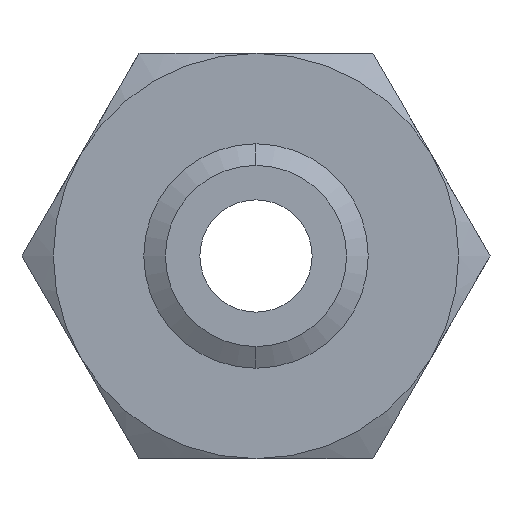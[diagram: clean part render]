
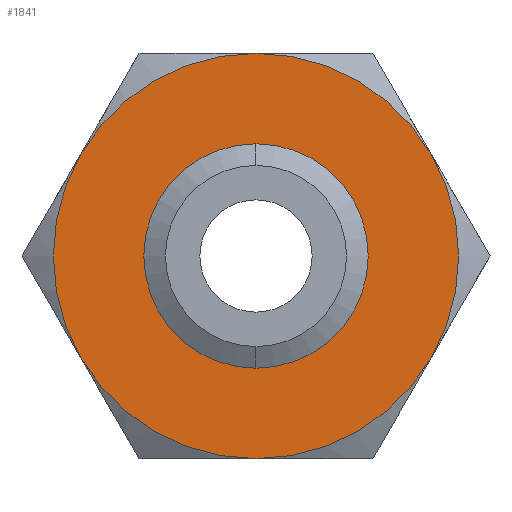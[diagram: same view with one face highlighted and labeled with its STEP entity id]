
A CAD part, front view. The second image highlights one B-rep face of the part: STEP entity #1841.
In plain terms, the highlighted planar face has unit normal (0, -1, 0).
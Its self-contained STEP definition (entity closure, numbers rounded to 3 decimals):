
#103 = VERTEX_POINT ( 'NONE', #429 ) ;
#104 = ORIENTED_EDGE ( 'NONE', *, *, #2124, .F. ) ;
#105 = EDGE_LOOP ( 'NONE', ( #104, #1705 ) ) ;
#106 = EDGE_CURVE ( 'NONE', #108, #103, #479, .T. ) ;
#108 = VERTEX_POINT ( 'NONE', #474 ) ;
#429 = CARTESIAN_POINT ( 'NONE',  ( 28.146, 0., 16.25 ) ) ;
#474 = CARTESIAN_POINT ( 'NONE',  ( 0., 0., 32.5 ) ) ;
#475 = DIRECTION ( 'NONE',  ( 0., 0., 1. ) ) ;
#476 = DIRECTION ( 'NONE',  ( 0., 1., 0. ) ) ;
#477 = CARTESIAN_POINT ( 'NONE',  ( 0., 0., 0. ) ) ;
#478 = AXIS2_PLACEMENT_3D ( 'NONE', #477, #476, #475 ) ;
#479 = CIRCLE ( 'NONE', #478, 32.5 ) ;
#795 = DIRECTION ( 'NONE',  ( 0., 0., -1. ) ) ;
#796 = DIRECTION ( 'NONE',  ( 0., -1., 0. ) ) ;
#797 = CARTESIAN_POINT ( 'NONE',  ( 0., 0., 0. ) ) ;
#798 = AXIS2_PLACEMENT_3D ( 'NONE', #797, #796, #795 ) ;
#799 = CIRCLE ( 'NONE', #798, 14.536 ) ;
#976 = CARTESIAN_POINT ( 'NONE',  ( -28.146, 0., 16.25 ) ) ;
#1000 = CARTESIAN_POINT ( 'NONE',  ( -28.146, 0., -16.25 ) ) ;
#1017 = DIRECTION ( 'NONE',  ( 0., 0., 1. ) ) ;
#1018 = DIRECTION ( 'NONE',  ( 0., 1., 0. ) ) ;
#1019 = CARTESIAN_POINT ( 'NONE',  ( 0., 0., 0. ) ) ;
#1020 = AXIS2_PLACEMENT_3D ( 'NONE', #1019, #1018, #1017 ) ;
#1021 = CIRCLE ( 'NONE', #1020, 32.5 ) ;
#1028 = AXIS2_PLACEMENT_3D ( 'NONE', #1093, #1092, #1091 ) ;
#1029 = PLANE ( 'NONE',  #1028 ) ;
#1030 = FACE_BOUND ( 'NONE', #105, .T. ) ;
#1031 = DIRECTION ( 'NONE',  ( 0., 0., 1. ) ) ;
#1032 = DIRECTION ( 'NONE',  ( 0., 1., 0. ) ) ;
#1033 = CARTESIAN_POINT ( 'NONE',  ( 0., 0., 0. ) ) ;
#1034 = AXIS2_PLACEMENT_3D ( 'NONE', #1033, #1032, #1031 ) ;
#1035 = CIRCLE ( 'NONE', #1034, 32.5 ) ;
#1036 = FACE_OUTER_BOUND ( 'NONE', #1874, .T. ) ;
#1041 = DIRECTION ( 'NONE',  ( 0., 0., 1. ) ) ;
#1042 = DIRECTION ( 'NONE',  ( 0., 1., 0. ) ) ;
#1043 = CARTESIAN_POINT ( 'NONE',  ( 0., 0., 0. ) ) ;
#1044 = AXIS2_PLACEMENT_3D ( 'NONE', #1043, #1042, #1041 ) ;
#1045 = CIRCLE ( 'NONE', #1044, 32.5 ) ;
#1046 = CARTESIAN_POINT ( 'NONE',  ( 28.146, 0., -16.25 ) ) ;
#1047 = DIRECTION ( 'NONE',  ( 0., 0., 1. ) ) ;
#1048 = DIRECTION ( 'NONE',  ( 0., 1., 0. ) ) ;
#1049 = CARTESIAN_POINT ( 'NONE',  ( 0., 0., 0. ) ) ;
#1050 = AXIS2_PLACEMENT_3D ( 'NONE', #1049, #1048, #1047 ) ;
#1055 = CIRCLE ( 'NONE', #1050, 32.5 ) ;
#1058 = CARTESIAN_POINT ( 'NONE',  ( 0., 0., -32.5 ) ) ;
#1087 = DIRECTION ( 'NONE',  ( 0., 0., 1. ) ) ;
#1088 = DIRECTION ( 'NONE',  ( 0., 1., 0. ) ) ;
#1089 = AXIS2_PLACEMENT_3D ( 'NONE', #1094, #1088, #1087 ) ;
#1090 = CIRCLE ( 'NONE', #1089, 32.5 ) ;
#1091 = DIRECTION ( 'NONE',  ( 0., 0., 1. ) ) ;
#1092 = DIRECTION ( 'NONE',  ( 0., 1., 0. ) ) ;
#1093 = CARTESIAN_POINT ( 'NONE',  ( 18.764, 0., -32.5 ) ) ;
#1094 = CARTESIAN_POINT ( 'NONE',  ( 0., 0., 0. ) ) ;
#1594 = DIRECTION ( 'NONE',  ( 0., 0., -1. ) ) ;
#1595 = DIRECTION ( 'NONE',  ( 0., -1., 0. ) ) ;
#1596 = CARTESIAN_POINT ( 'NONE',  ( 0., 0., 0. ) ) ;
#1597 = AXIS2_PLACEMENT_3D ( 'NONE', #1596, #1595, #1594 ) ;
#1598 = CIRCLE ( 'NONE', #1597, 14.536 ) ;
#1599 = CARTESIAN_POINT ( 'NONE',  ( 0., 0., 14.536 ) ) ;
#1600 = CARTESIAN_POINT ( 'NONE',  ( 0., 0., -14.536 ) ) ;
#1704 = EDGE_CURVE ( 'NONE', #2120, #2119, #799, .T. ) ;
#1705 = ORIENTED_EDGE ( 'NONE', *, *, #1704, .F. ) ;
#1785 = ORIENTED_EDGE ( 'NONE', *, *, #1837, .F. ) ;
#1787 = VERTEX_POINT ( 'NONE', #976 ) ;
#1798 = EDGE_CURVE ( 'NONE', #1787, #108, #1021, .T. ) ;
#1799 = ORIENTED_EDGE ( 'NONE', *, *, #1798, .F. ) ;
#1823 = VERTEX_POINT ( 'NONE', #1000 ) ;
#1827 = VERTEX_POINT ( 'NONE', #1058 ) ;
#1829 = ORIENTED_EDGE ( 'NONE', *, *, #1839, .F. ) ;
#1834 = ORIENTED_EDGE ( 'NONE', *, *, #1835, .F. ) ;
#1835 = EDGE_CURVE ( 'NONE', #1836, #1827, #1055, .T. ) ;
#1836 = VERTEX_POINT ( 'NONE', #1046 ) ;
#1837 = EDGE_CURVE ( 'NONE', #1823, #1787, #1045, .T. ) ;
#1839 = EDGE_CURVE ( 'NONE', #1827, #1823, #1035, .T. ) ;
#1841 = ADVANCED_FACE ( 'NONE', ( #1036, #1030 ), #1029, .F. ) ;
#1842 = ORIENTED_EDGE ( 'NONE', *, *, #1844, .F. ) ;
#1844 = EDGE_CURVE ( 'NONE', #103, #1836, #1090, .T. ) ;
#1851 = ORIENTED_EDGE ( 'NONE', *, *, #106, .F. ) ;
#1874 = EDGE_LOOP ( 'NONE', ( #1851, #1799, #1785, #1829, #1834, #1842 ) ) ;
#2119 = VERTEX_POINT ( 'NONE', #1600 ) ;
#2120 = VERTEX_POINT ( 'NONE', #1599 ) ;
#2124 = EDGE_CURVE ( 'NONE', #2119, #2120, #1598, .T. ) ;
